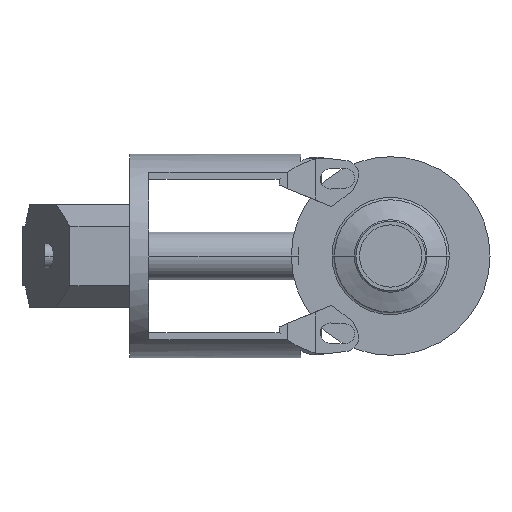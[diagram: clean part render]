
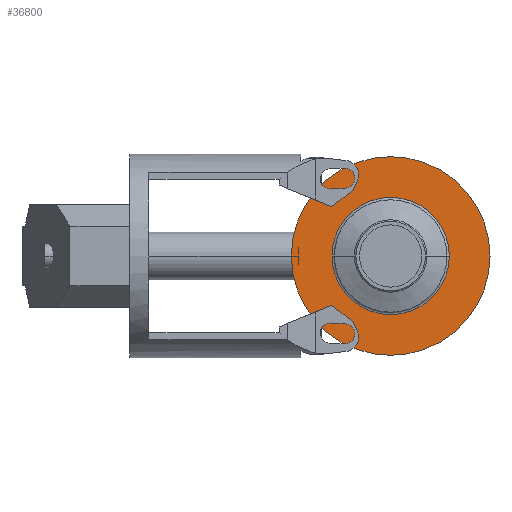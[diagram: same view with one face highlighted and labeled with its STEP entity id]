
A CAD part, left-side view. The second image highlights one B-rep face of the part: STEP entity #36800.
In plain terms, the highlighted planar face has unit normal (-1, 0, 0).
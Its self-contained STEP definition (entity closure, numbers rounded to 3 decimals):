
#34130=CARTESIAN_POINT('',(-115.082,-28.723,
0.));
#34140=VERTEX_POINT('',#34130);
#36410=CARTESIAN_POINT('',(-115.082,54.277,0.));
#36420=VERTEX_POINT('',#36410);
#36450=CARTESIAN_POINT('',(-115.082,12.777,0.));
#36460=DIRECTION('',(1.,0.,0.));
#36470=DIRECTION('',(0.,1.,0.));
#36480=AXIS2_PLACEMENT_3D('',#36450,#36460,#36470);
#36490=CIRCLE('',#36480,41.5);
#36500=EDGE_CURVE('',#34140,#36420,#36490,.T.);
#36550=CARTESIAN_POINT('',(-115.082,51.927,0.));
#36560=DIRECTION('',(-1.,0.,0.));
#36570=DIRECTION('',(0.,1.,0.));
#36580=AXIS2_PLACEMENT_3D('',#36550,#36560,#36570);
#36590=PLANE('',#36580);
#36600=CARTESIAN_POINT('',(-115.082,12.777,0.));
#36610=DIRECTION('',(1.,0.,0.));
#36620=DIRECTION('',(0.,-1.,0.));
#36630=AXIS2_PLACEMENT_3D('',#36600,#36610,#36620);
#36640=CIRCLE('',#36630,24.5);
#36650=CARTESIAN_POINT('',(-115.082,-11.723,0.));
#36660=VERTEX_POINT('',#36650);
#36670=CARTESIAN_POINT('',(-115.082,37.277,0.));
#36680=VERTEX_POINT('',#36670);
#36690=EDGE_CURVE('',#36660,#36680,#36640,.T.);
#36700=ORIENTED_EDGE('',*,*,#36690,.T.);
#36710=EDGE_CURVE('',#36680,#36660,#36640,.T.);
#36720=ORIENTED_EDGE('',*,*,#36710,.T.);
#36730=EDGE_LOOP('',(#36720,#36700));
#36740=FACE_BOUND('',#36730,.T.);
#36750=EDGE_CURVE('',#36420,#34140,#36490,.T.);
#36760=ORIENTED_EDGE('',*,*,#36750,.F.);
#36770=ORIENTED_EDGE('',*,*,#36500,.F.);
#36780=EDGE_LOOP('',(#36770,#36760));
#36790=FACE_OUTER_BOUND('',#36780,.T.);
#36800=ADVANCED_FACE('',(#36740,#36790),#36590,.T.);
